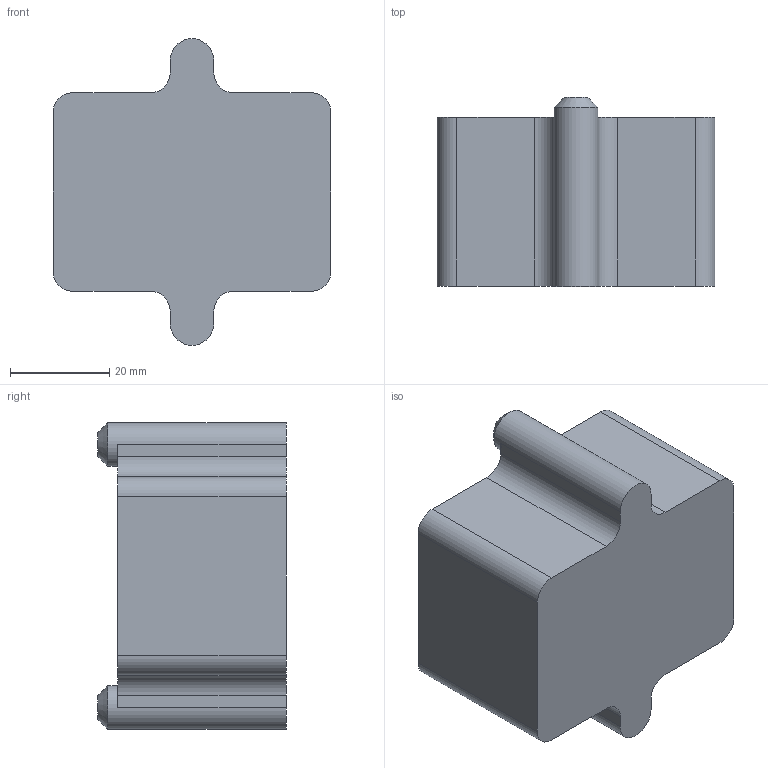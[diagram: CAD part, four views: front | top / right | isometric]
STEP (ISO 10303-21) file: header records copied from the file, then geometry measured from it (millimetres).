
FILE_DESCRIPTION (( 'STEP AP203' ), '1' );
FILE_NAME ('GM Press Block.STEP', '2025-03-06T23:02:02', ( '' ), ( '' ), 'SwSTEP 2.0', 'SolidWorks 2024', '' );
FILE_SCHEMA (( 'CONFIG_CONTROL_DESIGN' ));
Length unit declared in the file: millimetre
Products named in the file (1): GM Press Block
Bounding box: 56 x 38 x 61.8 mm (x, y, z)
Volume: 78277 mm3; surface area: 21939.1 mm2
Topology: 1 solids, 1 shells, 378 faces, 598 edges, 398 vertices
Faces by surface type: plane 190, cylinder 186, cone 2
Full cylindrical faces by diameter (mm): 1.75 x176, 8.8 x2
Entity records: 7901 total; most frequent: DIRECTION 1550, CARTESIAN_POINT 1191, ORIENTED_EDGE 832, AXIS2_PLACEMENT_3D 755, EDGE_LOOP 734, FACE_OUTER_BOUND 556, EDGE_CURVE 416, VERTEX_POINT 396
